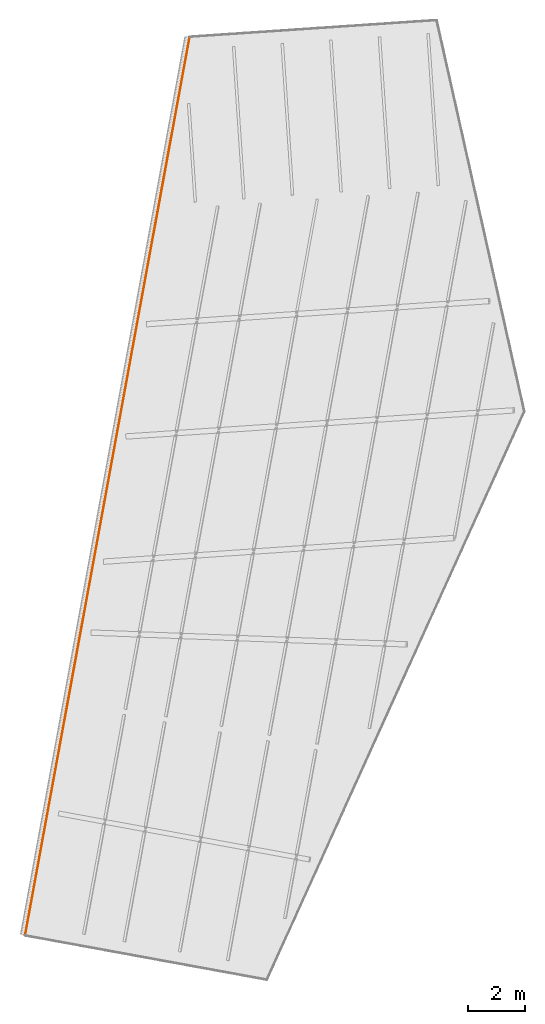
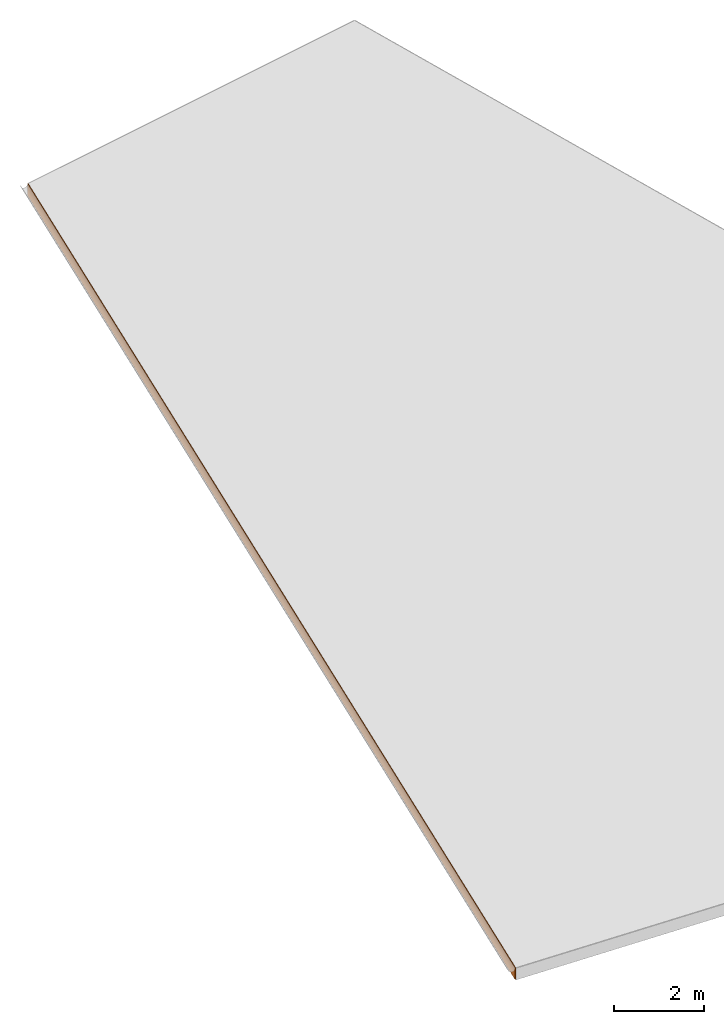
# One storey, part 3 of 3: 1 proxy.
"""IFC2X3 building model written with IfcOpenShell, lengths in centimetres."""

import ifcopenshell
import ifcopenshell.guid

model = None  # the IFC model being written
_history = None  # IfcOwnerHistory: only IFC2X3 demands one
_inside = {}  # id of a spatial element -> (the spatial element, [elements in it])
_under = {}  # id of a project, library or spatial element -> (it, [spatial elements below it])
_declared = {}  # id of a project -> (the project, [libraries it declares])
_typed = {}  # id of a type object -> (the type object, [elements of that type])
_made_of = {}  # id of a material, layer set ... -> (it, [elements and type objects made of it])


def new_model(schema):
    """Start an empty IFC model of exactly this schema.

    Asked for "IFC4X3", IfcOpenShell would pick the latest addendum, in which some entities
    have other attributes; the version numbers below select the first issue.
    IFC2X3 requires an IfcOwnerHistory on every rooted entity: one is made here for all.
    """
    global model, _history
    if schema == "IFC4X3":
        model = ifcopenshell.file(schema_version=(4, 3, 0, 0))
    else:
        model = ifcopenshell.file(schema=schema)
    _inside.clear()
    _under.clear()
    _declared.clear()
    _typed.clear()
    _made_of.clear()
    _history = None
    if model.schema == "IFC2X3":
        org = make("IfcOrganization", Name="unknown")
        user = make(
            "IfcPersonAndOrganization",
            ThePerson=make("IfcPerson", FamilyName="unknown"),
            TheOrganization=org,
        )
        app = make(
            "IfcApplication",
            ApplicationDeveloper=org,
            Version="unknown",
            ApplicationFullName="unknown",
            ApplicationIdentifier="unknown",
        )
        _history = make(
            "IfcOwnerHistory",
            OwningUser=user,
            OwningApplication=app,
            ChangeAction="ADDED",
            CreationDate=0,
        )
    return model


def make(cls, **values):
    """One entity of the class cls with the attributes given. An attribute that is None is left unset."""
    return model.create_entity(
        cls, **{name: value for name, value in values.items() if value is not None}
    )


def entity(cls, *values):
    """Any entity or typed value of the class cls, its attributes in the order of the schema. None: left unset."""
    e = model.create_entity(cls)
    for i, value in enumerate(values):
        if value is not None:
            e[i] = value
    return e


def rooted(cls, **values):
    """An entity with a GlobalId (a new one), such as an element, a storey or a relation."""
    return make(cls, GlobalId=ifcopenshell.guid.new(), OwnerHistory=_history, **values)


def si_unit(unit_type, name, prefix=None):
    """IfcSIUnit, for example si_unit("LENGTHUNIT", "METRE", prefix="MILLI")."""
    return make("IfcSIUnit", UnitType=unit_type, Prefix=prefix, Name=name)


def converted_unit(unit_type, name, factor, base, dimensions=None, offset=None):
    """IfcConversionBasedUnit, such as the inch: factor (a typed value) times the base unit."""
    return make(
        "IfcConversionBasedUnit"
        if offset is None
        else "IfcConversionBasedUnitWithOffset",
        ConversionOffset=offset,
        Dimensions=None
        if dimensions is None
        else entity("IfcDimensionalExponents", *dimensions),
        UnitType=unit_type,
        Name=name,
        ConversionFactor=make(
            "IfcMeasureWithUnit", ValueComponent=factor, UnitComponent=base
        ),
    )


def derived_unit(unit_type, elements):
    """IfcDerivedUnit: a product of units, each with its exponent."""
    return make(
        "IfcDerivedUnit",
        Elements=[
            make("IfcDerivedUnitElement", Unit=unit, Exponent=power)
            for unit, power in elements
        ],
        UnitType=unit_type,
    )


def assignment(units):
    """IfcUnitAssignment: the units of a project."""
    return None if units is None else make("IfcUnitAssignment", Units=units)


def point(xyz):
    """IfcCartesianPoint."""
    return None if xyz is None else make("IfcCartesianPoint", Coordinates=xyz)


def direction(xyz):
    """IfcDirection."""
    return None if xyz is None else make("IfcDirection", DirectionRatios=xyz)


def frame(location, z_axis=None, x_axis=None):
    """IfcAxis2Placement3D, a coordinate frame: its origin and axes. An axis left out is left unset."""
    return make(
        "IfcAxis2Placement3D",
        Location=point(location),
        Axis=direction(z_axis),
        RefDirection=direction(x_axis),
    )


def frame_2d(location, x_axis=None):
    """IfcAxis2Placement2D, a coordinate frame in the plane: its origin and x axis."""
    return make(
        "IfcAxis2Placement2D", Location=point(location), RefDirection=direction(x_axis)
    )


def origin():
    """The frame at (0, 0, 0) with its axes left unset."""
    return frame((0.0, 0.0, 0.0))


def place(relative_to, where):
    """IfcLocalPlacement: puts the frame where relative to a parent placement (None: the world)."""
    return make(
        "IfcLocalPlacement", PlacementRelTo=relative_to, RelativePlacement=where
    )


def context(
    kind, dimensions, precision=None, world=None, true_north=None, identifier=None
):
    """IfcGeometricRepresentationContext, for example the 3D "Model" context."""
    return make(
        "IfcGeometricRepresentationContext",
        ContextIdentifier=identifier,
        ContextType=kind,
        CoordinateSpaceDimension=dimensions,
        Precision=precision,
        WorldCoordinateSystem=world,
        TrueNorth=true_north,
    )


def subcontext(parent, identifier, kind, view, scale=None):
    """IfcGeometricRepresentationSubContext, for example "Body" below "Model"."""
    return make(
        "IfcGeometricRepresentationSubContext",
        ContextIdentifier=identifier,
        ContextType=kind,
        ParentContext=parent,
        TargetScale=scale,
        TargetView=view,
    )


def project(units=None, contexts=None):
    """IfcProject with its units and contexts."""
    return rooted(
        "IfcProject",
        Name="project",
        RepresentationContexts=contexts,
        UnitsInContext=assignment(units),
    )


def spatial(cls, under=None, at=None, **own):
    """A site, building, storey or space (cls), placed at a placement, below another one or the project."""
    s = rooted(cls, ObjectPlacement=at, **own)
    if under is not None:
        _under.setdefault(under.id(), (under, []))[1].append(s)
    return s


def polyline(points):
    """IfcPolyline through the points."""
    return make("IfcPolyline", Points=[point(p) for p in points])


def circle_curve(where, radius):
    """IfcCircle in the frame where."""
    return make("IfcCircle", Position=where, Radius=radius)


def parameter(value):
    """IfcParameterValue: where a trimmed curve begins or ends, as a parameter of its basis curve."""
    return model.create_entity("IfcParameterValue", value)


def trimmed(basis, trim1, trim2, sense, master):
    """IfcTrimmedCurve: the piece of a basis curve between two trims."""
    return make(
        "IfcTrimmedCurve",
        BasisCurve=basis,
        Trim1=trim1,
        Trim2=trim2,
        SenseAgreement=sense,
        MasterRepresentation=master,
    )


def segment(curve, same_sense, transition):
    """IfcCompositeCurveSegment."""
    return make(
        "IfcCompositeCurveSegment",
        Transition=transition,
        SameSense=same_sense,
        ParentCurve=curve,
    )


def composite_curve(segments, self_intersect=None):
    """IfcCompositeCurve: segments joined end to end."""
    return make("IfcCompositeCurve", Segments=segments, SelfIntersect=self_intersect)


def outline(outer, holes=None, kind="AREA"):
    """IfcArbitraryClosedProfileDef: a profile drawn as a closed curve; with holes, ...WithVoids."""
    if holes is None:
        return make("IfcArbitraryClosedProfileDef", ProfileType=kind, OuterCurve=outer)
    return make(
        "IfcArbitraryProfileDefWithVoids",
        ProfileType=kind,
        OuterCurve=outer,
        InnerCurves=holes,
    )


def extrude(swept, where, along, depth):
    """IfcExtrudedAreaSolid: the profile swept, set in the frame where, extruded along a direction by depth."""
    return make(
        "IfcExtrudedAreaSolid",
        SweptArea=swept,
        Position=where,
        ExtrudedDirection=direction(along),
        Depth=depth,
    )


def shape(context_of_items, identifier, shape_type, items):
    """IfcShapeRepresentation: the items that make up one representation, for example the "Body"."""
    return make(
        "IfcShapeRepresentation",
        ContextOfItems=context_of_items,
        RepresentationIdentifier=identifier,
        RepresentationType=shape_type,
        Items=items,
    )


def made_of(thing, what):
    """Note that an element or type object is made of a material, layer set ...; save() writes the relation."""
    if what is not None:
        _made_of.setdefault(what.id(), (what, []))[1].append(thing)
    return thing


def element(
    cls,
    number,
    at=None,
    inside=None,
    cuts=None,
    type_object=None,
    material=None,
    context=None,
    identifier="Body",
    shape_type=None,
    held_by="IfcProductDefinitionShape",
    body=None,
    shapes=None,
    **own,
):
    """One element of the class cls, such as IfcWall. Its Tag is "e" and its number.

    at: its placement. inside: the storey or other place that contains it. cuts: it is an
    opening in that element (IfcRelVoidsElement). A single representation is given by context,
    identifier, shape_type and body (its items); several are given by shapes. held_by: the class
    of the entity that holds the representations. save() writes the other relations.
    """
    e = rooted(cls, Tag="e%d" % number, ObjectPlacement=at, **own)
    if body is not None:
        shapes = [shape(context, identifier, shape_type, body)]
    if shapes is not None:
        e.Representation = make(held_by, Representations=shapes)
    if inside is not None:
        _inside.setdefault(inside.id(), (inside, []))[1].append(e)
    if cuts is not None:
        rooted(
            "IfcRelVoidsElement", RelatingBuildingElement=cuts, RelatedOpeningElement=e
        )
    if type_object is not None:
        _typed.setdefault(type_object.id(), (type_object, []))[1].append(e)
    return made_of(e, material)


def aggregate(whole, parts):
    """IfcRelAggregates: a whole, such as a stair, and the parts it consists of."""
    return rooted("IfcRelAggregates", RelatingObject=whole, RelatedObjects=parts)


def save(model, path):
    """Write the relations noted so far, then the file.

    IfcRelAggregates (storeys below a building ...), IfcRelContainedInSpatialStructure (elements
    in a storey), IfcRelDefinesByType, IfcRelAssociatesMaterial and IfcRelDeclares: one each for
    every whole, place, type object, material and project.
    """
    for whole, parts in _under.values():
        aggregate(whole, parts)
    for where, things in _inside.values():
        rooted(
            "IfcRelContainedInSpatialStructure",
            RelatedElements=things,
            RelatingStructure=where,
        )
    for kind, things in _typed.values():
        rooted("IfcRelDefinesByType", RelatedObjects=things, RelatingType=kind)
    for what, things in _made_of.values():
        rooted("IfcRelAssociatesMaterial", RelatedObjects=things, RelatingMaterial=what)
    for by, libraries in _declared.values():
        rooted("IfcRelDeclares", RelatingContext=by, RelatedDefinitions=libraries)
    model.write(path)


model = new_model("IFC2X3")

# Units and contexts
model_context = context("Model", 3, precision=0.001, world=origin(), true_north=direction((6.12303176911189e-17, 1.0)))
body_context = subcontext(model_context, "Body", "Model", "MODEL_VIEW")
ifc_project = project(units=[si_unit("LENGTHUNIT", "METRE", prefix="CENTI"), si_unit("AREAUNIT", "SQUARE_METRE"), si_unit("VOLUMEUNIT", "CUBIC_METRE"), converted_unit("PLANEANGLEUNIT", "DEGREE", entity("IfcRatioMeasure", 0.0174532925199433), si_unit("PLANEANGLEUNIT", "RADIAN"), dimensions=[0, 0, 0, 0, 0, 0, 0]), si_unit("MASSUNIT", "GRAM", prefix="KILO"), derived_unit("MASSDENSITYUNIT", [(si_unit("MASSUNIT", "GRAM", prefix="KILO"), 1), (si_unit("LENGTHUNIT", "METRE"), -3)]), si_unit("TIMEUNIT", "SECOND"), si_unit("FREQUENCYUNIT", "HERTZ"), si_unit("THERMODYNAMICTEMPERATUREUNIT", "DEGREE_CELSIUS"), derived_unit("THERMALTRANSMITTANCEUNIT", [(si_unit("MASSUNIT", "GRAM", prefix="KILO"), 1), (si_unit("THERMODYNAMICTEMPERATUREUNIT", "KELVIN"), -1), (si_unit("TIMEUNIT", "SECOND"), -3)]), derived_unit("VOLUMETRICFLOWRATEUNIT", [(si_unit("LENGTHUNIT", "METRE"), 3), (si_unit("TIMEUNIT", "SECOND"), -1)]), si_unit("ELECTRICCURRENTUNIT", "AMPERE"), si_unit("ELECTRICVOLTAGEUNIT", "VOLT"), si_unit("POWERUNIT", "WATT"), si_unit("FORCEUNIT", "NEWTON", prefix="KILO"), si_unit("ILLUMINANCEUNIT", "LUX"), si_unit("LUMINOUSFLUXUNIT", "LUMEN"), si_unit("LUMINOUSINTENSITYUNIT", "CANDELA"), derived_unit("USERDEFINED", [(si_unit("MASSUNIT", "GRAM", prefix="KILO"), -1), (si_unit("LENGTHUNIT", "METRE"), -2), (si_unit("TIMEUNIT", "SECOND"), 3), (si_unit("LUMINOUSFLUXUNIT", "LUMEN"), 1)]), derived_unit("LINEARVELOCITYUNIT", [(si_unit("LENGTHUNIT", "METRE"), 1), (si_unit("TIMEUNIT", "SECOND"), -1)]), si_unit("PRESSUREUNIT", "PASCAL"), derived_unit("USERDEFINED", [(si_unit("LENGTHUNIT", "METRE"), -2), (si_unit("MASSUNIT", "GRAM", prefix="KILO"), 1), (si_unit("TIMEUNIT", "SECOND"), -2)])], contexts=[model_context])

# Site, building, storey
site_placement = place(None, frame((2611.71187422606, 13650.4058644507, 0.0), z_axis=(0.0, 0.0, 1.0), x_axis=(0.0673222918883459, -0.997731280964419, 0.0)))
site = spatial("IfcSite", under=ifc_project, at=site_placement, Name="Surface", CompositionType="ELEMENT")
building_placement = place(site_placement, origin())
building = spatial("IfcBuilding", under=site, at=building_placement, CompositionType="ELEMENT")
storey_placement = place(building_placement, frame((0.0, 0.0, 87291.0)))
storey = spatial("IfcBuildingStorey", under=building, at=storey_placement, Name="2 Toiture batiment", CompositionType="ELEMENT", Elevation=87291.0)

# Proxy
proxy_placement = place(storey_placement, origin())
element("IfcBuildingElementProxy", 1, at=proxy_placement, inside=storey, Name="Bord de toiture:Habillage de rive H = 25cm", ObjectType="Bord de toiture:Habillage de rive H = 25cm", context=body_context, shape_type="SweptSolid", body=[
    extrude(outline(composite_curve([segment(polyline([(-19.0999999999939, 0.900000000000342), (-19.0999999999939, -1.0999999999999)]), True, "CONTINUOUS"), segment(polyline([(-19.0999999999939, -1.0999999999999), (12.9000000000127, -1.0999999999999)]), True, "CONTINUOUS"), segment(polyline([(12.9000000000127, -1.0999999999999), (12.9000000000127, 0.400000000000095)]), True, "CONTINUOUS"), segment(trimmed(circle_curve(frame_2d((12.9000000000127, 0.900000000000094), x_axis=(0.0, 1.0)), 0.499999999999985), [parameter(90.0000000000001)], [parameter(180.0)], True, "PARAMETER"), False, "CONTINUOUS"), segment(polyline([(12.4000000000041, 0.900000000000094), (-19.0999999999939, 0.900000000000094)]), True, "CONTINUOUS")], self_intersect=False)), frame((1919.55478742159, 177.322219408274, 13.1295764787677), z_axis=(-0.969283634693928, 0.245945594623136, 0.0), x_axis=(0.0, 0.0, -1.0)), (0.0, 0.0, -1.0), 3214.12237394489),
])

save(model, "model.ifc")
